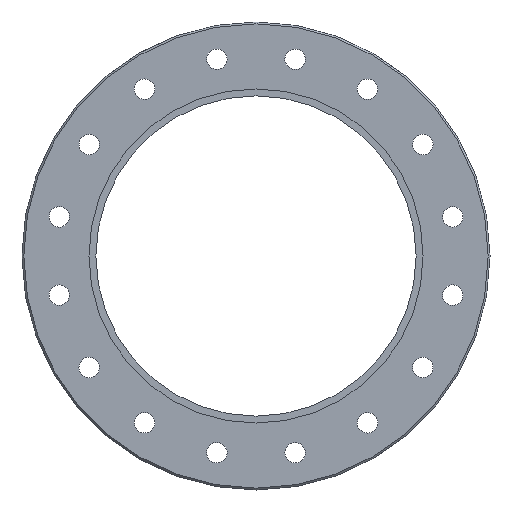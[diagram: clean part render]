
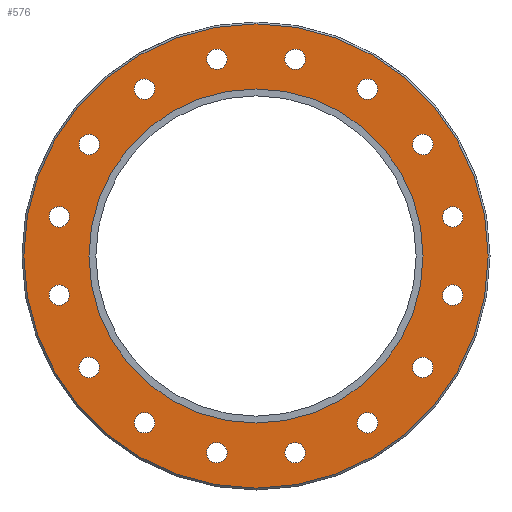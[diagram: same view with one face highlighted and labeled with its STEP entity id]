
A CAD part, left-side view. The second image highlights one B-rep face of the part: STEP entity #576.
In plain terms, the highlighted planar face has unit normal (-1, 0, 0).
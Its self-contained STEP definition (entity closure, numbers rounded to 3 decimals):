
#358=CARTESIAN_POINT('',(-20.,75.4,0.));
#359=VERTEX_POINT('',#358);
#360=CARTESIAN_POINT('',(-20.,0.,0.0));
#361=DIRECTION('',(1.0,0.0,0.0));
#362=DIRECTION('',(0.0,-1.0,0.0));
#363=AXIS2_PLACEMENT_3D('',#360,#361,#362);
#364=CIRCLE('',#363,75.4);
#365=EDGE_CURVE('',#359,#359,#364,.T.);
#381=CARTESIAN_POINT('',(-20.,38.,0.0));
#382=DIRECTION('',(-1.0,0.0,0.0));
#383=DIRECTION('',(0.0,0.0,1.0));
#384=AXIS2_PLACEMENT_3D('',#381,#382,#383);
#385=PLANE('',#384);
#386=ORIENTED_EDGE('',*,*,#365,.F.);
#387=EDGE_LOOP('',(#386));
#388=FACE_OUTER_BOUND('',#387,.T.);
#389=CARTESIAN_POINT('',(-20.0,63.898,-9.387));
#390=VERTEX_POINT('',#389);
#391=CARTESIAN_POINT('',(-20.0,63.898,-12.71));
#392=DIRECTION('',(1.0,0.0,0.0));
#393=DIRECTION('',(0.0,0.0,-1.0));
#394=AXIS2_PLACEMENT_3D('',#391,#392,#393);
#395=CIRCLE('',#394,3.324);
#396=EDGE_CURVE('',#390,#390,#395,.T.);
#397=ORIENTED_EDGE('',*,*,#396,.T.);
#398=EDGE_LOOP('',(#397));
#399=FACE_BOUND('',#398,.T.);
#400=CARTESIAN_POINT('',(-20.0,62.626,15.781));
#401=VERTEX_POINT('',#400);
#402=CARTESIAN_POINT('',(-20.0,63.898,12.71));
#403=DIRECTION('',(1.,0.0,0.0));
#404=DIRECTION('',(0.0,0.383,-0.924));
#405=AXIS2_PLACEMENT_3D('',#402,#403,#404);
#406=CIRCLE('',#405,3.324);
#407=EDGE_CURVE('',#401,#401,#406,.T.);
#408=ORIENTED_EDGE('',*,*,#407,.T.);
#409=EDGE_LOOP('',(#408));
#410=FACE_BOUND('',#409,.T.);
#411=CARTESIAN_POINT('',(-20.0,51.82,38.545));
#412=VERTEX_POINT('',#411);
#413=CARTESIAN_POINT('',(-20.0,54.17,36.195));
#414=DIRECTION('',(1.,0.0,0.0));
#415=DIRECTION('',(0.0,0.707,-0.707));
#416=AXIS2_PLACEMENT_3D('',#413,#414,#415);
#417=CIRCLE('',#416,3.324);
#418=EDGE_CURVE('',#412,#412,#417,.T.);
#419=ORIENTED_EDGE('',*,*,#418,.T.);
#420=EDGE_LOOP('',(#419));
#421=FACE_BOUND('',#420,.T.);
#422=CARTESIAN_POINT('',(-20.0,33.125,55.442));
#423=VERTEX_POINT('',#422);
#424=CARTESIAN_POINT('',(-20.,36.195,54.17));
#425=DIRECTION('',(1.0,0.0,0.0));
#426=DIRECTION('',(0.0,0.924,-0.383));
#427=AXIS2_PLACEMENT_3D('',#424,#425,#426);
#428=CIRCLE('',#427,3.324);
#429=EDGE_CURVE('',#423,#423,#428,.T.);
#430=ORIENTED_EDGE('',*,*,#429,.T.);
#431=EDGE_LOOP('',(#430));
#432=FACE_BOUND('',#431,.T.);
#433=CARTESIAN_POINT('',(-20.0,9.387,63.898));
#434=VERTEX_POINT('',#433);
#435=CARTESIAN_POINT('',(-20.,12.71,63.898));
#436=DIRECTION('',(1.0,0.0,0.0));
#437=DIRECTION('',(0.0,1.0,0.0));
#438=AXIS2_PLACEMENT_3D('',#435,#436,#437);
#439=CIRCLE('',#438,3.324);
#440=EDGE_CURVE('',#434,#434,#439,.T.);
#441=ORIENTED_EDGE('',*,*,#440,.T.);
#442=EDGE_LOOP('',(#441));
#443=FACE_BOUND('',#442,.T.);
#444=CARTESIAN_POINT('',(-20.0,-15.781,62.626));
#445=VERTEX_POINT('',#444);
#446=CARTESIAN_POINT('',(-20.,-12.71,63.898));
#447=DIRECTION('',(1.0,0.0,0.0));
#448=DIRECTION('',(0.0,0.924,0.383));
#449=AXIS2_PLACEMENT_3D('',#446,#447,#448);
#450=CIRCLE('',#449,3.324);
#451=EDGE_CURVE('',#445,#445,#450,.T.);
#452=ORIENTED_EDGE('',*,*,#451,.T.);
#453=EDGE_LOOP('',(#452));
#454=FACE_BOUND('',#453,.T.);
#455=CARTESIAN_POINT('',(-20.0,-38.545,51.82));
#456=VERTEX_POINT('',#455);
#457=CARTESIAN_POINT('',(-20.,-36.195,54.17));
#458=DIRECTION('',(1.0,0.0,0.0));
#459=DIRECTION('',(0.0,0.707,0.707));
#460=AXIS2_PLACEMENT_3D('',#457,#458,#459);
#461=CIRCLE('',#460,3.324);
#462=EDGE_CURVE('',#456,#456,#461,.T.);
#463=ORIENTED_EDGE('',*,*,#462,.T.);
#464=EDGE_LOOP('',(#463));
#465=FACE_BOUND('',#464,.T.);
#466=CARTESIAN_POINT('',(-20.0,-55.442,33.125));
#467=VERTEX_POINT('',#466);
#468=CARTESIAN_POINT('',(-20.,-54.17,36.195));
#469=DIRECTION('',(1.0,0.0,0.0));
#470=DIRECTION('',(0.0,0.383,0.924));
#471=AXIS2_PLACEMENT_3D('',#468,#469,#470);
#472=CIRCLE('',#471,3.324);
#473=EDGE_CURVE('',#467,#467,#472,.T.);
#474=ORIENTED_EDGE('',*,*,#473,.T.);
#475=EDGE_LOOP('',(#474));
#476=FACE_BOUND('',#475,.T.);
#477=CARTESIAN_POINT('',(-20.0,-63.898,9.387));
#478=VERTEX_POINT('',#477);
#479=CARTESIAN_POINT('',(-20.,-63.898,12.71));
#480=DIRECTION('',(1.0,0.0,0.0));
#481=DIRECTION('',(0.0,0.0,1.0));
#482=AXIS2_PLACEMENT_3D('',#479,#480,#481);
#483=CIRCLE('',#482,3.324);
#484=EDGE_CURVE('',#478,#478,#483,.T.);
#485=ORIENTED_EDGE('',*,*,#484,.T.);
#486=EDGE_LOOP('',(#485));
#487=FACE_BOUND('',#486,.T.);
#488=CARTESIAN_POINT('',(-20.0,-62.626,-15.781));
#489=VERTEX_POINT('',#488);
#490=CARTESIAN_POINT('',(-20.,-63.898,-12.71));
#491=DIRECTION('',(1.0,0.0,0.0));
#492=DIRECTION('',(0.0,-0.383,0.924));
#493=AXIS2_PLACEMENT_3D('',#490,#491,#492);
#494=CIRCLE('',#493,3.324);
#495=EDGE_CURVE('',#489,#489,#494,.T.);
#496=ORIENTED_EDGE('',*,*,#495,.T.);
#497=EDGE_LOOP('',(#496));
#498=FACE_BOUND('',#497,.T.);
#499=CARTESIAN_POINT('',(-20.0,-51.82,-38.545));
#500=VERTEX_POINT('',#499);
#501=CARTESIAN_POINT('',(-20.,-54.17,-36.195));
#502=DIRECTION('',(1.0,0.0,0.0));
#503=DIRECTION('',(0.0,-0.707,0.707));
#504=AXIS2_PLACEMENT_3D('',#501,#502,#503);
#505=CIRCLE('',#504,3.324);
#506=EDGE_CURVE('',#500,#500,#505,.T.);
#507=ORIENTED_EDGE('',*,*,#506,.T.);
#508=EDGE_LOOP('',(#507));
#509=FACE_BOUND('',#508,.T.);
#510=CARTESIAN_POINT('',(-20.0,-33.125,-55.442));
#511=VERTEX_POINT('',#510);
#512=CARTESIAN_POINT('',(-20.,-36.195,-54.17));
#513=DIRECTION('',(1.,0.0,0.0));
#514=DIRECTION('',(0.0,-0.924,0.383));
#515=AXIS2_PLACEMENT_3D('',#512,#513,#514);
#516=CIRCLE('',#515,3.324);
#517=EDGE_CURVE('',#511,#511,#516,.T.);
#518=ORIENTED_EDGE('',*,*,#517,.T.);
#519=EDGE_LOOP('',(#518));
#520=FACE_BOUND('',#519,.T.);
#521=CARTESIAN_POINT('',(-20.0,-9.387,-63.898));
#522=VERTEX_POINT('',#521);
#523=CARTESIAN_POINT('',(-20.,-12.71,-63.898));
#524=DIRECTION('',(1.0,0.0,0.0));
#525=DIRECTION('',(0.0,-1.0,0.0));
#526=AXIS2_PLACEMENT_3D('',#523,#524,#525);
#527=CIRCLE('',#526,3.324);
#528=EDGE_CURVE('',#522,#522,#527,.T.);
#529=ORIENTED_EDGE('',*,*,#528,.T.);
#530=EDGE_LOOP('',(#529));
#531=FACE_BOUND('',#530,.T.);
#532=CARTESIAN_POINT('',(-20.0,15.781,-62.626));
#533=VERTEX_POINT('',#532);
#534=CARTESIAN_POINT('',(-20.,12.71,-63.898));
#535=DIRECTION('',(1.0,0.0,0.0));
#536=DIRECTION('',(0.0,-0.924,-0.383));
#537=AXIS2_PLACEMENT_3D('',#534,#535,#536);
#538=CIRCLE('',#537,3.324);
#539=EDGE_CURVE('',#533,#533,#538,.T.);
#540=ORIENTED_EDGE('',*,*,#539,.T.);
#541=EDGE_LOOP('',(#540));
#542=FACE_BOUND('',#541,.T.);
#543=CARTESIAN_POINT('',(-20.0,38.545,-51.82));
#544=VERTEX_POINT('',#543);
#545=CARTESIAN_POINT('',(-20.0,36.195,-54.17));
#546=DIRECTION('',(1.0,0.0,0.0));
#547=DIRECTION('',(0.0,-0.707,-0.707));
#548=AXIS2_PLACEMENT_3D('',#545,#546,#547);
#549=CIRCLE('',#548,3.324);
#550=EDGE_CURVE('',#544,#544,#549,.T.);
#551=ORIENTED_EDGE('',*,*,#550,.T.);
#552=EDGE_LOOP('',(#551));
#553=FACE_BOUND('',#552,.T.);
#554=CARTESIAN_POINT('',(-20.0,55.442,-33.125));
#555=VERTEX_POINT('',#554);
#556=CARTESIAN_POINT('',(-20.0,54.17,-36.195));
#557=DIRECTION('',(1.,0.0,0.0));
#558=DIRECTION('',(0.0,-0.383,-0.924));
#559=AXIS2_PLACEMENT_3D('',#556,#557,#558);
#560=CIRCLE('',#559,3.324);
#561=EDGE_CURVE('',#555,#555,#560,.T.);
#562=ORIENTED_EDGE('',*,*,#561,.T.);
#563=EDGE_LOOP('',(#562));
#564=FACE_BOUND('',#563,.T.);
#565=CARTESIAN_POINT('',(-20.,54.25,0.0));
#566=VERTEX_POINT('',#565);
#567=CARTESIAN_POINT('',(-20.,0.0,0.0));
#568=DIRECTION('',(1.0,0.0,0.0));
#569=DIRECTION('',(0.0,1.0,0.0));
#570=AXIS2_PLACEMENT_3D('',#567,#568,#569);
#571=CIRCLE('',#570,54.25);
#572=EDGE_CURVE('',#566,#566,#571,.T.);
#573=ORIENTED_EDGE('',*,*,#572,.T.);
#574=EDGE_LOOP('',(#573));
#575=FACE_BOUND('',#574,.T.);
#576=ADVANCED_FACE('',(#388,#399,#410,#421,#432,#443,#454,#465,#476,#487,#498,#509,#520,#531,#542,#553,#564,#575),#385,.T.);
